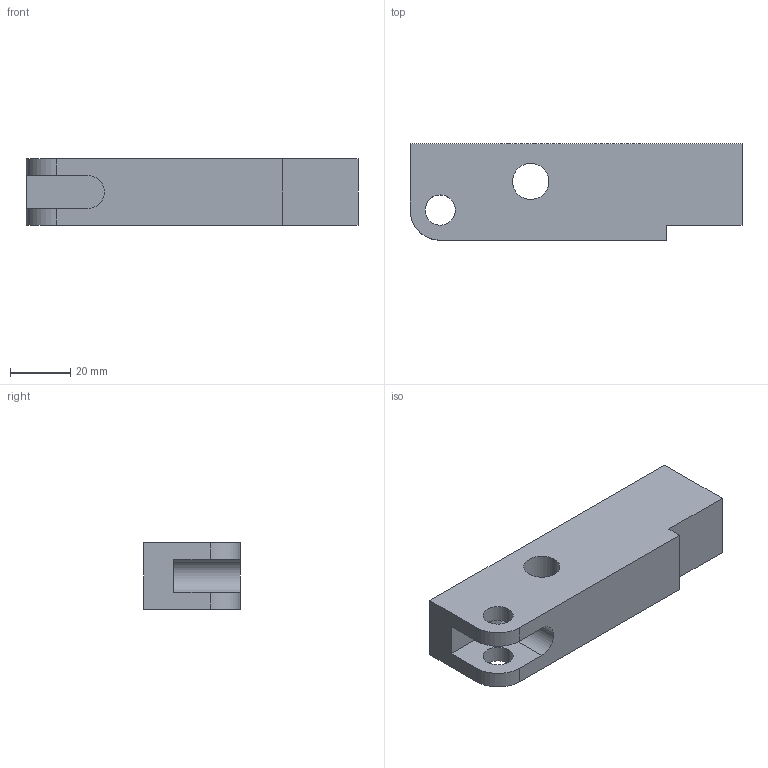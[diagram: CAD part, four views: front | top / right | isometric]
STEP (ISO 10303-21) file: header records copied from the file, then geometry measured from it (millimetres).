
FILE_DESCRIPTION (( 'STEP AP203' ), '1' );
FILE_NAME ('4193 652.STEP', '2017-11-29T09:49:40', ( '' ), ( '' ), 'SwSTEP 2.0', 'SolidWorks 2015', '' );
FILE_SCHEMA (( 'CONFIG_CONTROL_DESIGN' ));
Length unit declared in the file: millimetre
Products named in the file (1): 4193 652
Bounding box: 110 x 32 x 22 mm (x, y, z)
Volume: 65095.5 mm3; surface area: 14579.7 mm2
Topology: 1 solids, 1 shells, 20 faces, 54 edges, 36 vertices
Faces by surface type: plane 11, cylinder 9
Entity records: 725 total; most frequent: DIRECTION 114, CARTESIAN_POINT 111, ORIENTED_EDGE 108, EDGE_CURVE 54, AXIS2_PLACEMENT_3D 39, VECTOR 36, LINE 36, VERTEX_POINT 36
